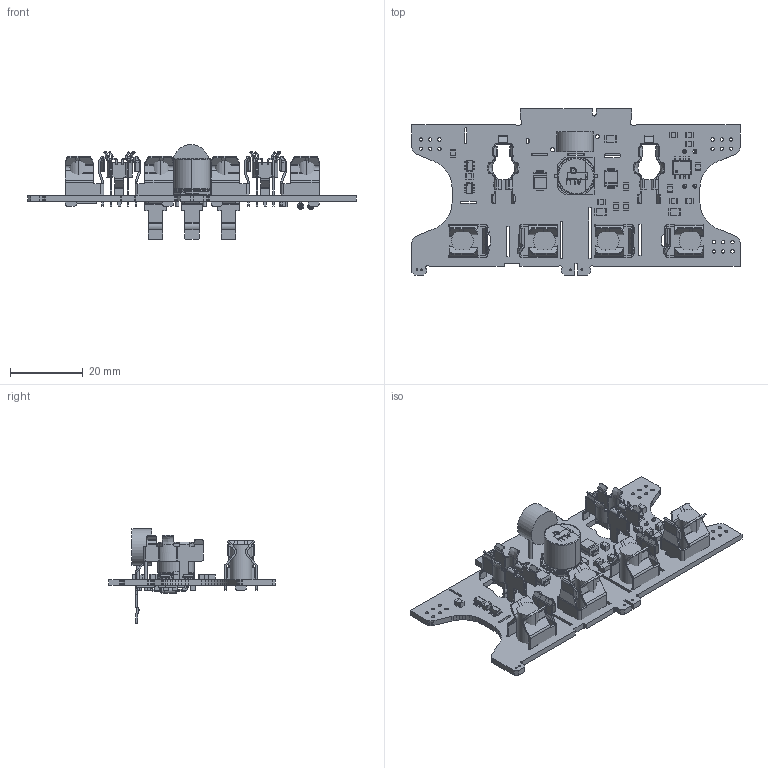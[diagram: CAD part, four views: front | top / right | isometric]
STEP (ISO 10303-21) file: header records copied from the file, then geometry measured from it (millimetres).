
FILE_DESCRIPTION(('Open CASCADE Model'),'2;1');
FILE_NAME('Open CASCADE Shape Model','2019-02-14T14:09:46',('Author'),( 'Open CASCADE'),'Open CASCADE STEP processor 6.5','Open CASCADE 6.5' ,'Unknown');
FILE_SCHEMA(('AUTOMOTIVE_DESIGN { 1 0 10303 214 1 1 1 1 }'));
Length unit declared in the file: millimetre
Products named in the file (73): PCB; Board; U4; INA181A4IDBVR; Body; PinsArrayLR; C1; 533786640; Extruded; 533786512; C2; 533786896; 533786768; C3; C4; C23; User_Library-ALU-G; User_Library-ALU-G_Pins_1; User_Library-ALU-G_Fuss_1; User_Library-ALU-G_K_X_F6rper_1; User_Library-ALU-G_Beschriftung_1; D3; SMB_nominal; D6; F1; 634741216; 634741088; R1; R3; R4; R5; R7; R8; R9; R10; RV1; 584105048; Cylinder; 584105168; U1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
Assembly tree (140 placements, depth 4):
  PCB
    Board
    U4
      INA181A4IDBVR
        Body
        PinsArrayLR
    C1
      533786640  x2
        Extruded
      533786512
        Extruded
    C2
      533786896  x2
        Extruded
      533786768
        Extruded
    C3
      533786640  x2
        Extruded
      533786512
        Extruded
    C4
      533786640  x2
        Extruded
      533786512
        Extruded
    C23
      User_Library-ALU-G
        User_Library-ALU-G_Pins_1
        User_Library-ALU-G_Fuss_1
        User_Library-ALU-G_K_X_F6rper_1
        User_Library-ALU-G_Beschriftung_1
    D3
      SMB_nominal
    D6
      SMB_nominal
    F1
      634741216  x2
        Extruded
      634741088
        Extruded
    R1
      533786896  x2
        Extruded
      533786768
        Extruded
    R3
      634741216  x2
        Extruded
      634741088
        Extruded
    R4
      533786896  x2
        Extruded
      533786768
        Extruded
    R5
      533786640  x2
        Extruded
      533786512
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Bounding box: 90.02 x 45.7 x 26 mm (x, y, z)
Volume: 8788.2 mm3; surface area: 16344.2 mm2
Topology: 111 solids, 111 shells, 3260 faces, 7994 edges, 4950 vertices
Faces by surface type: plane 2185, cylinder 844, bspline 215, torus 16
Full cylindrical faces by diameter (mm): 0.2 x2, 0.5 x4, 0.85 x2, 0.9 x18, 1.067 x2, 1.1 x4, 2 x1, 10 x1
Entity records: 150715 total; most frequent: CARTESIAN_POINT 55805, DIRECTION 15451, LINE 9491, VECTOR 9491, ORIENTED_EDGE 9468, PCURVE 9468, DEFINITIONAL_REPRESENTATION 9468, EDGE_CURVE 4734
